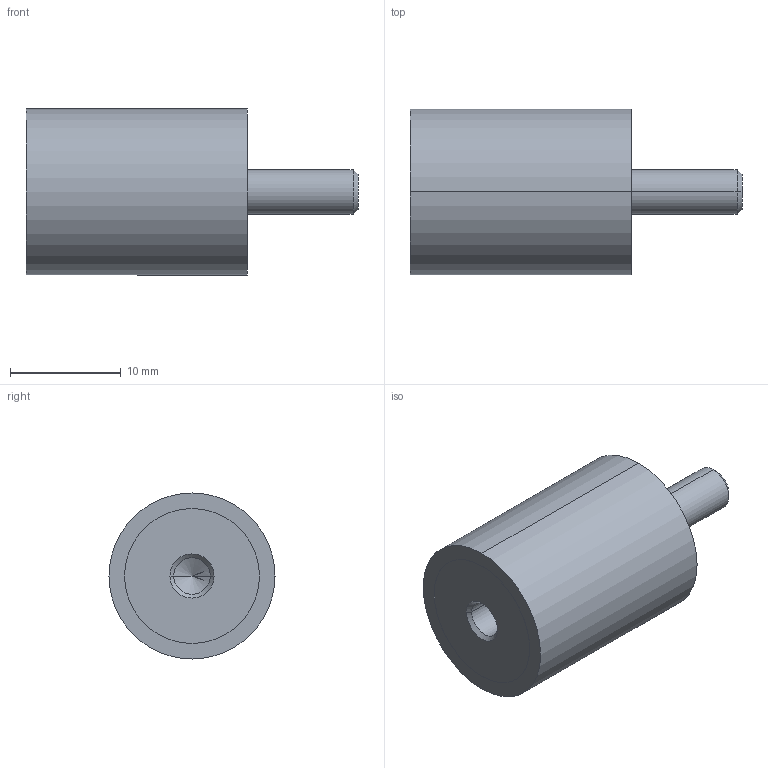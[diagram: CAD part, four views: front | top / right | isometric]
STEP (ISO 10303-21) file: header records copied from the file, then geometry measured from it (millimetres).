
FILE_DESCRIPTION (( 'STEP AP214' ), '1' );
FILE_NAME ('351-15-20-M4-ES-55.step', '2025-07-23T09:49:39', ( '' ), ( '' ), 'SwSTEP 2.0', 'SolidWorks 2022', '' );
FILE_SCHEMA (( 'AUTOMOTIVE_DESIGN' ));
Length unit declared in the file: millimetre
Products named in the file (1): 351-15-20-M4-ES-55
Bounding box: 30 x 15 x 15 mm (x, y, z)
Volume: 3610.7 mm3; surface area: 1469.9 mm2
Topology: 1 solids, 1 shells, 24 faces, 48 edges, 29 vertices
Faces by surface type: cylinder 12, cone 6, plane 6
Entity records: 740 total; most frequent: DIRECTION 124, CARTESIAN_POINT 100, ORIENTED_EDGE 92, AXIS2_PLACEMENT_3D 53, EDGE_CURVE 46, EDGE_LOOP 29, VERTEX_POINT 29, CIRCLE 28
